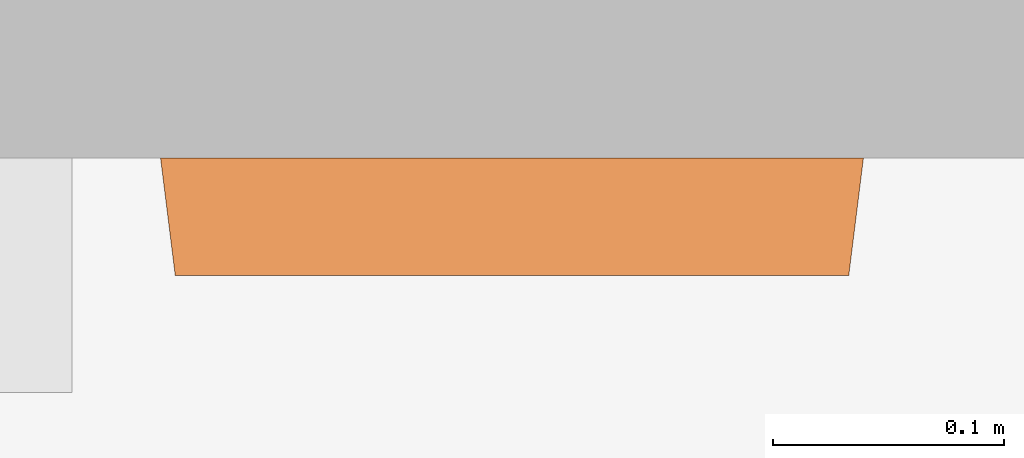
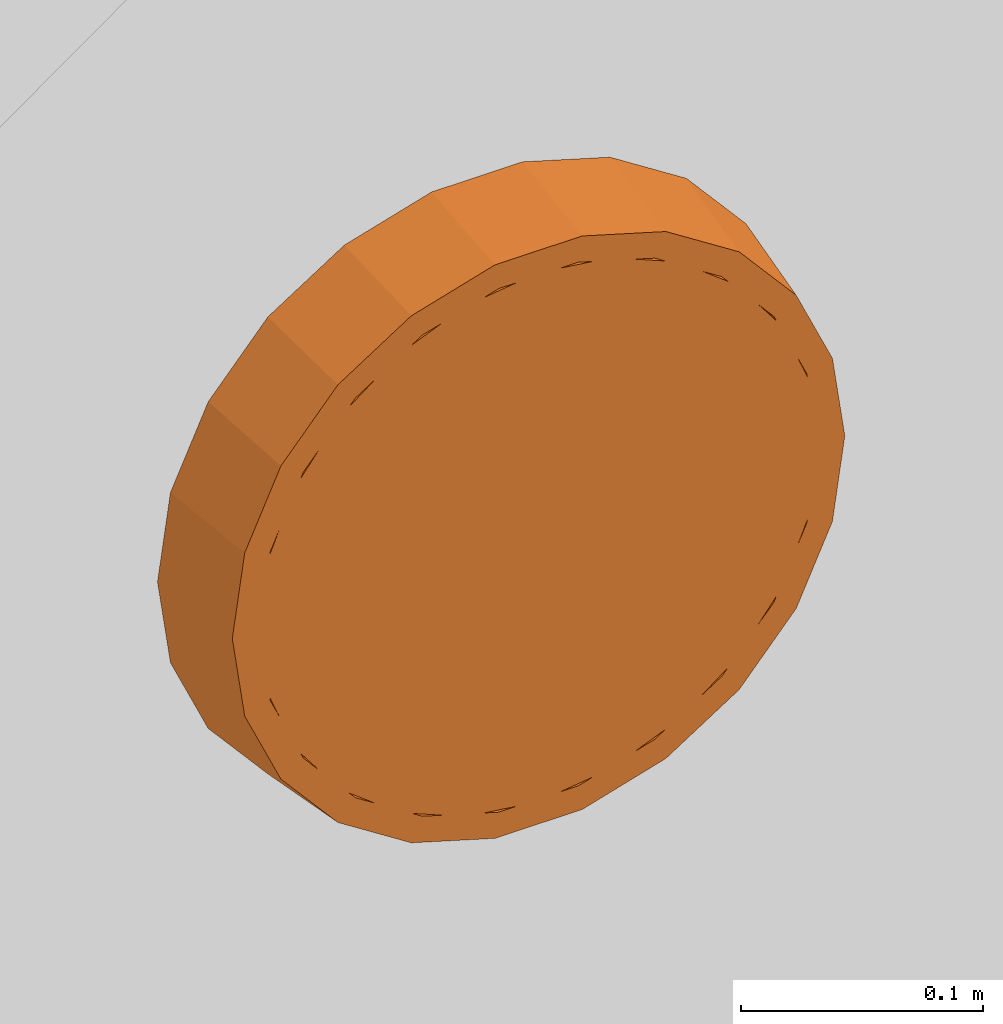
# One storey, part 10 of 10: 1 proxy.
"""IFC2X3 building model written with IfcOpenShell, lengths in feet."""

from ifc_helpers import new_model, entity, si_unit, converted_unit, derived_unit, direction, frame, origin, place, context, subcontext, project, spatial, faceted_brep, source, transform, mapped, type_object, type_shapes, element, save


model = new_model("IFC2X3")

# Units and contexts
model_context = context("Model", 3, precision=0.0001, world=origin(), true_north=direction((6.12303176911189e-17, 1.0)))
body_context = subcontext(model_context, "Body", "Model", "MODEL_VIEW")
ifc_project = project(units=[converted_unit("LENGTHUNIT", "FOOT", entity("IfcRatioMeasure", 0.3048), si_unit("LENGTHUNIT", "METRE"), dimensions=[1, 0, 0, 0, 0, 0, 0]), converted_unit("AREAUNIT", "SQUARE FOOT", entity("IfcRatioMeasure", 0.09290304), si_unit("AREAUNIT", "SQUARE_METRE"), dimensions=[2, 0, 0, 0, 0, 0, 0]), converted_unit("VOLUMEUNIT", "CUBIC FOOT", entity("IfcRatioMeasure", 0.028316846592), si_unit("VOLUMEUNIT", "CUBIC_METRE"), dimensions=[3, 0, 0, 0, 0, 0, 0]), converted_unit("PLANEANGLEUNIT", "DEGREE", entity("IfcRatioMeasure", 0.0174532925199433), si_unit("PLANEANGLEUNIT", "RADIAN"), dimensions=[0, 0, 0, 0, 0, 0, 0]), si_unit("MASSUNIT", "GRAM", prefix="KILO"), derived_unit("MASSDENSITYUNIT", [(si_unit("MASSUNIT", "GRAM", prefix="KILO"), 1), (si_unit("LENGTHUNIT", "METRE"), -3)]), si_unit("TIMEUNIT", "SECOND"), si_unit("FREQUENCYUNIT", "HERTZ"), si_unit("THERMODYNAMICTEMPERATUREUNIT", "DEGREE_CELSIUS"), derived_unit("THERMALTRANSMITTANCEUNIT", [(si_unit("MASSUNIT", "GRAM", prefix="KILO"), 1), (si_unit("THERMODYNAMICTEMPERATUREUNIT", "KELVIN"), -1), (si_unit("TIMEUNIT", "SECOND"), -3)]), derived_unit("VOLUMETRICFLOWRATEUNIT", [(si_unit("LENGTHUNIT", "METRE"), 3), (si_unit("TIMEUNIT", "SECOND"), -1)]), si_unit("ELECTRICCURRENTUNIT", "AMPERE"), si_unit("ELECTRICVOLTAGEUNIT", "VOLT"), si_unit("POWERUNIT", "WATT"), si_unit("FORCEUNIT", "NEWTON"), si_unit("ILLUMINANCEUNIT", "LUX"), si_unit("LUMINOUSFLUXUNIT", "LUMEN"), si_unit("LUMINOUSINTENSITYUNIT", "CANDELA"), derived_unit("USERDEFINED", [(si_unit("MASSUNIT", "GRAM", prefix="KILO"), -1), (si_unit("LENGTHUNIT", "METRE"), -2), (si_unit("TIMEUNIT", "SECOND"), 3), (si_unit("LUMINOUSFLUXUNIT", "LUMEN"), 1)]), derived_unit("LINEARVELOCITYUNIT", [(si_unit("LENGTHUNIT", "METRE"), 1), (si_unit("TIMEUNIT", "SECOND"), -1)]), si_unit("PRESSUREUNIT", "PASCAL"), derived_unit("USERDEFINED", [(si_unit("LENGTHUNIT", "METRE"), -2), (si_unit("MASSUNIT", "GRAM", prefix="KILO"), 1), (si_unit("TIMEUNIT", "SECOND"), -2)])], contexts=[model_context])

# Site, building, storey, space
site_placement = place(None, origin())
site = spatial("IfcSite", under=ifc_project, at=site_placement, Name="Default", CompositionType="ELEMENT")
building_placement = place(site_placement, origin())
building = spatial("IfcBuilding", under=site, at=building_placement, Name="OUTPATIENT / PACT CLINIC (Ch. 265)", CompositionType="ELEMENT")
storey_placement = place(building_placement, origin())
storey = spatial("IfcBuildingStorey", under=building, at=storey_placement, Name="DATUM", CompositionType="ELEMENT", Elevation=0.0)
space_placement = place(storey_placement, origin())
space = spatial("IfcSpace", under=storey, at=space_placement, Name="WRTM3", CompositionType="ELEMENT", InteriorOrExteriorSpace="INTERNAL")

# Proxy
building_element_proxy_type = type_object("IfcBuildingElementProxyType", Name="F3200 - Clock, Battery, 12in Dia", PredefinedType="NOTDEFINED")
shared_shape = source(origin(), body_context, "Body", "Brep", [
    faceted_brep([(0.0527623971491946, -0.166666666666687, -0.0087350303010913), (0.143371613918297, -0.166666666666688, 0.0607918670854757), (0.212898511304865, -0.16666666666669, 0.151401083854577), (0.256604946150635, -0.166666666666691, 0.256917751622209), (0.271512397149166, -0.166666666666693, 0.370151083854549), (0.256604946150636, -0.166666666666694, 0.483384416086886), (0.212898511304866, -0.166666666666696, 0.588901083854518), (0.143371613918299, -0.166666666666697, 0.67951030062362), (0.052762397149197, -0.166666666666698, 0.749037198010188), (-0.0527542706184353, -0.166666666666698, 0.792743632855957), (-0.165987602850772, -0.166666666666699, 0.807651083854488), (-0.279220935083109, -0.166666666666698, 0.792743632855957), (-0.384737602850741, -0.166666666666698, 0.749037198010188), (-0.475346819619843, -0.166666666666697, 0.679510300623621), (-0.544873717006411, -0.166666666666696, 0.588901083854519), (-0.588580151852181, -0.166666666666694, 0.483384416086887), (-0.603487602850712, -0.166666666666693, 0.37015108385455), (-0.588580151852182, -0.166666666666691, 0.256917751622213), (-0.544873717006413, -0.16666666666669, 0.151401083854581), (-0.475346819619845, -0.166666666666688, 0.0607918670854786), (-0.384737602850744, -0.166666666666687, -0.0087350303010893), (-0.279220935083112, -0.166666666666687, -0.052441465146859), (-0.165987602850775, -0.166666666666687, -0.0673489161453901), (-0.0527542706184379, -0.166666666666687, -0.0524414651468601), (0.256604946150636, -0.145833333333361, 0.483384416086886), (0.271512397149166, -0.145833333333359, 0.370151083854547), (0.256604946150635, -0.145833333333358, 0.256917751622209), (0.212898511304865, -0.145833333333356, 0.151401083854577), (0.143371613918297, -0.145833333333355, 0.0607918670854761), (0.0527623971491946, -0.145833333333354, -0.00873503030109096), (-0.0527542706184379, -0.145833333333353, -0.0524414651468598), (-0.165987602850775, -0.145833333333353, -0.0673489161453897), (-0.279220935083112, -0.145833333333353, -0.0524414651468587), (-0.384737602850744, -0.145833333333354, -0.00873503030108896), (-0.475346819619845, -0.145833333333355, 0.060791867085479), (-0.544873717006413, -0.145833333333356, 0.151401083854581), (-0.588580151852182, -0.145833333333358, 0.256917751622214), (-0.603487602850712, -0.145833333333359, 0.37015108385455), (-0.588580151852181, -0.145833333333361, 0.483384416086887), (-0.544873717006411, -0.145833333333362, 0.588901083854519), (-0.475346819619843, -0.145833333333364, 0.679510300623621), (-0.384737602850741, -0.145833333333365, 0.749037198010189), (-0.279220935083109, -0.145833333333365, 0.792743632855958), (-0.165987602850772, -0.145833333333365, 0.807651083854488), (-0.0527542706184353, -0.145833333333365, 0.792743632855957), (0.052762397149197, -0.145833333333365, 0.749037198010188), (0.143371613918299, -0.145833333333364, 0.67951030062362), (0.212898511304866, -0.145833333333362, 0.588901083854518)], [[[0, 1, 2, 3, 4, 5, 6, 7, 8, 9, 10, 11, 12, 13, 14, 15, 16, 17, 18, 19, 20, 21, 22, 23]], [[24, 25, 26, 27, 28, 29, 30, 31, 32, 33, 34, 35, 36, 37, 38, 39, 40, 41, 42, 43, 44, 45, 46, 47]], [[36, 17, 16, 37]], [[35, 18, 17, 36]], [[20, 19, 34, 33]], [[35, 34, 19, 18]], [[21, 20, 33, 32]], [[22, 21, 32, 31]], [[30, 23, 22, 31]], [[29, 0, 23, 30]], [[2, 1, 28, 27]], [[29, 28, 1, 0]], [[3, 2, 27, 26]], [[4, 3, 26, 25]], [[24, 5, 4, 25]], [[47, 6, 5, 24]], [[8, 7, 46, 45]], [[47, 46, 7, 6]], [[9, 8, 45, 44]], [[10, 9, 44, 43]], [[11, 10, 43, 42]], [[12, 11, 42, 41]], [[14, 39, 38, 15]], [[15, 38, 37, 16]], [[12, 41, 40, 13]], [[40, 39, 14, 13]]]),
    faceted_brep([(-0.493417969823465, 0.0, -0.00772370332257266), (-0.586614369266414, 0.0, 0.0998306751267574), (-0.165987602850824, 0.0, 0.370151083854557), (-0.373695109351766, 0.0, -0.0846649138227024), (-0.645734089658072, 0.0, 0.229284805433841), (-0.665987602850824, 0.0, 0.370151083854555), (-0.645734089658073, 0.0, 0.51101736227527), (-0.586614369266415, 0.0, 0.640471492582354), (-0.493417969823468, 0.0, 0.748025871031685), (-0.373695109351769, 0.0, 0.824967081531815), (-0.237145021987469, 0.0, 0.865061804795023), (-0.0948301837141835, 0.0, 0.865061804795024), (0.0417199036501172, 0.0, 0.824967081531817), (0.161442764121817, 0.0, 0.748025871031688), (0.254639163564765, 0.0, 0.640471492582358), (0.313758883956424, 0.0, 0.511017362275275), (0.334012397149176, 0.0, 0.370151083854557), (0.313758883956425, 0.0, 0.229284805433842), (0.254639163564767, 0.0, 0.0998306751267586), (0.161442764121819, 0.0, -0.00772370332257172), (0.0417199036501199, 0.0, -0.0846649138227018), (-0.0948301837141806, 0.0, -0.124759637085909), (-0.237145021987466, 0.0, -0.124759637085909), (-0.165987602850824, -0.145833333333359, 0.370151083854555), (-0.534036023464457, -0.145833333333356, 0.133620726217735), (-0.452489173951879, -0.145833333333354, 0.0395106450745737), (-0.585765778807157, -0.145833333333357, 0.246893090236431), (-0.347731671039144, -0.145833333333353, -0.0278129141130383), (-0.228250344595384, -0.145833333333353, -0.0628957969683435), (-0.603487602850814, -0.145833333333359, 0.370151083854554), (-0.103724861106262, -0.145833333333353, -0.0628957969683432), (0.0157564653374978, -0.145833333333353, -0.0278129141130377), (0.120513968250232, -0.145833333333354, 0.0395106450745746), (0.20206081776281, -0.145833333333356, 0.133620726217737), (0.253790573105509, -0.145833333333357, 0.246893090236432), (0.271512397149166, -0.145833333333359, 0.370151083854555), (-0.585765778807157, -0.145833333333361, 0.493409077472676), (-0.534036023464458, -0.145833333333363, 0.606681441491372), (-0.452489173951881, -0.145833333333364, 0.700791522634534), (-0.347731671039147, -0.145833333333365, 0.768115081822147), (-0.228250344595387, -0.145833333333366, 0.803197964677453), (0.253790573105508, -0.145833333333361, 0.49340907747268), (0.202060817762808, -0.145833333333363, 0.606681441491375), (0.12051396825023, -0.145833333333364, 0.700791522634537), (0.0157564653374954, -0.145833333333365, 0.768115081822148), (-0.103724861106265, -0.145833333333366, 0.803197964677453), (0.253790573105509, -0.166666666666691, 0.246893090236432), (0.271512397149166, -0.166666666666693, 0.370151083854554), (0.20206081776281, -0.166666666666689, 0.133620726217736), (-0.103724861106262, -0.166666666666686, -0.0628957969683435), (0.0157564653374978, -0.166666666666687, -0.0278129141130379), (0.120513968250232, -0.166666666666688, 0.0395106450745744), (-0.228250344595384, -0.166666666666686, -0.0628957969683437), (-0.452489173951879, -0.166666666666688, 0.0395106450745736), (-0.347731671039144, -0.166666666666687, -0.0278129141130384), (-0.603487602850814, -0.166666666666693, 0.370151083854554), (-0.585765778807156, -0.166666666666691, 0.246893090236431), (-0.534036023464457, -0.166666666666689, 0.133620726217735), (-0.585765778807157, -0.166666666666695, 0.493409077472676), (-0.534036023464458, -0.166666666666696, 0.606681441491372), (-0.347731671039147, -0.166666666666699, 0.768115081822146), (-0.452489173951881, -0.166666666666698, 0.700791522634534), (-0.228250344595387, -0.166666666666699, 0.803197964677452), (-0.103724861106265, -0.166666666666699, 0.803197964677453), (0.0157564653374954, -0.166666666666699, 0.768115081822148), (0.12051396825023, -0.166666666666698, 0.700791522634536), (0.253790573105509, -0.166666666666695, 0.493409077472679), (0.202060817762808, -0.166666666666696, 0.606681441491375), (-0.62574465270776, -0.166666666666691, 0.235154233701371), (-0.64515426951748, -0.166666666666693, 0.370151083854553), (-0.569088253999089, -0.166666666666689, 0.111094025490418), (-0.479775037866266, -0.166666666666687, 0.00802107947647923), (-0.365040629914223, -0.166666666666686, -0.0657142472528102), (-0.234180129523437, -0.166666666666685, -0.104138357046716), (-0.0977950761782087, -0.166666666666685, -0.104138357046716), (0.0330654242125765, -0.166666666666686, -0.0657142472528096), (0.147799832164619, -0.166666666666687, 0.00802107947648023), (0.237113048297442, -0.166666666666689, 0.11109402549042), (0.293769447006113, -0.166666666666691, 0.235154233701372), (0.313179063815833, -0.166666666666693, 0.370151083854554), (0.293769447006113, -0.166666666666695, 0.50514793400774), (0.237113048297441, -0.166666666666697, 0.629208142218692), (0.147799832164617, -0.166666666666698, 0.732281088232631), (0.0330654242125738, -0.1666666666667, 0.80601641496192), (-0.0977950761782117, -0.1666666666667, 0.844440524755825), (-0.23418012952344, -0.1666666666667, 0.844440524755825), (-0.365040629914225, -0.1666666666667, 0.806016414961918), (-0.479775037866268, -0.166666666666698, 0.732281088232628), (-0.569088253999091, -0.166666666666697, 0.629208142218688), (-0.625744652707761, -0.166666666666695, 0.505147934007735)], [[[0, 1, 2]], [[0, 2, 3]], [[4, 2, 1]], [[2, 4, 5]], [[5, 6, 2]], [[2, 6, 7]], [[2, 7, 8]], [[2, 8, 9]], [[9, 10, 2]], [[11, 2, 10]], [[2, 11, 12]], [[2, 12, 13]], [[14, 2, 13]], [[2, 14, 15]], [[15, 16, 2]], [[2, 16, 17]], [[2, 17, 18]], [[18, 19, 2]], [[19, 20, 2]], [[21, 2, 20]], [[2, 21, 22]], [[22, 3, 2]], [[23, 24, 25]], [[24, 23, 26]], [[27, 23, 25]], [[23, 27, 28]], [[29, 26, 23]], [[28, 30, 23]], [[31, 23, 30]], [[23, 31, 32]], [[23, 32, 33]], [[33, 34, 23]], [[34, 35, 23]], [[23, 36, 29]], [[37, 36, 23]], [[38, 37, 23]], [[39, 38, 23]], [[23, 40, 39]], [[23, 35, 41]], [[41, 42, 23]], [[43, 23, 42]], [[43, 44, 23]], [[44, 45, 23]], [[40, 23, 45]], [[46, 47, 35, 34]], [[46, 34, 33, 48]], [[31, 30, 49, 50]], [[32, 31, 50, 51]], [[51, 48, 33, 32]], [[30, 28, 52, 49]], [[27, 25, 53, 54]], [[28, 27, 54, 52]], [[29, 55, 56, 26]], [[26, 56, 57, 24]], [[24, 57, 53, 25]], [[55, 29, 36, 58]], [[58, 36, 37, 59]], [[60, 61, 38, 39]], [[59, 37, 38, 61]], [[39, 40, 62, 60]], [[40, 45, 63, 62]], [[64, 63, 45, 44]], [[64, 44, 43, 65]], [[41, 35, 47, 66]], [[42, 41, 66, 67]], [[67, 65, 43, 42]], [[68, 55, 69]], [[56, 55, 68]], [[68, 70, 56]], [[70, 57, 56]], [[71, 57, 70]], [[57, 71, 53]], [[72, 53, 71]], [[54, 53, 72]], [[72, 73, 54]], [[73, 52, 54]], [[49, 52, 73]], [[73, 74, 49]], [[74, 50, 49]], [[75, 50, 74]], [[50, 75, 51]], [[76, 51, 75]], [[48, 51, 76]], [[76, 77, 48]], [[77, 46, 48]], [[78, 46, 77]], [[46, 78, 47]], [[78, 79, 47]], [[79, 80, 47]], [[66, 47, 80]], [[80, 81, 66]], [[66, 81, 67]], [[82, 67, 81]], [[67, 82, 65]], [[65, 82, 83]], [[64, 65, 83]], [[83, 84, 64]], [[64, 84, 63]], [[85, 63, 84]], [[63, 85, 62]], [[62, 85, 60]], [[86, 60, 85]], [[60, 86, 61]], [[61, 86, 87]], [[59, 61, 87]], [[87, 88, 59]], [[59, 88, 58]], [[89, 58, 88]], [[55, 89, 69]], [[58, 89, 55]], [[78, 17, 16, 79]], [[77, 18, 17, 78]], [[19, 76, 75, 20]], [[77, 76, 19, 18]], [[20, 75, 74, 21]], [[74, 73, 22, 21]], [[22, 73, 72, 3]], [[0, 3, 72, 71]], [[4, 1, 70, 68]], [[70, 1, 0, 71]], [[5, 4, 68, 69]], [[89, 6, 5, 69]], [[88, 7, 6, 89]], [[8, 87, 86, 9]], [[88, 87, 8, 7]], [[9, 86, 85, 10]], [[85, 84, 11, 10]], [[83, 12, 11, 84]], [[82, 13, 12, 83]], [[14, 81, 80, 15]], [[82, 81, 14, 13]], [[15, 80, 79, 16]]]),
])
type_shapes(building_element_proxy_type, [shared_shape])
proxy_placement = place(space_placement, frame((243.016410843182, -849.855546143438, 6.07894807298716)))
element("IfcBuildingElementProxy", 1, at=proxy_placement, inside=space, type_object=building_element_proxy_type, Name="F3200 - Clock, Battery, 12in Dia:F3200 - Clock, Battery, 12in Dia", ObjectType="F3200 - Clock, Battery, 12in Dia", context=body_context, shape_type="MappedRepresentation", body=[
    mapped(shared_shape, transform((0.0, 0.0, 0.0), scale=1.0)),
])

save(model, "model.ifc")
